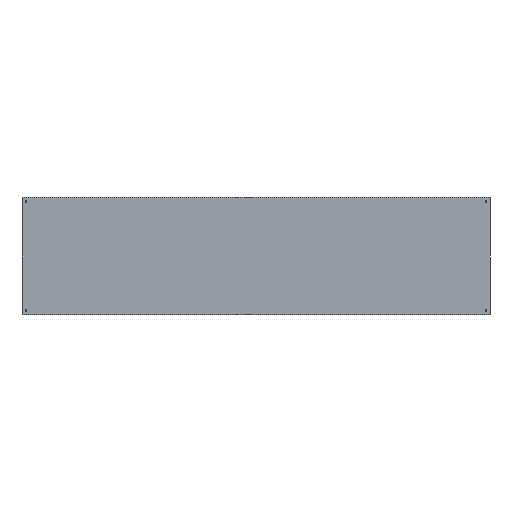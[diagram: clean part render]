
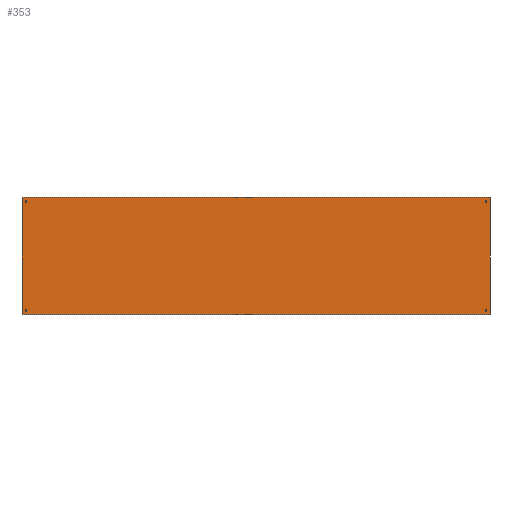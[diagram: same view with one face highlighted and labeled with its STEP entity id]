
A CAD part, top view. The second image highlights one B-rep face of the part: STEP entity #353.
In plain terms, the highlighted planar face has unit normal (0, 0, 1).
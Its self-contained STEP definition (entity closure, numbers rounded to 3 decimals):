
#30=FACE_BOUND('',#82,.T.);
#31=FACE_BOUND('',#83,.T.);
#32=FACE_BOUND('',#84,.T.);
#33=FACE_BOUND('',#85,.T.);
#42=CIRCLE('',#383,5.);
#43=CIRCLE('',#384,5.);
#44=CIRCLE('',#385,5.);
#45=CIRCLE('',#386,5.);
#46=CIRCLE('',#387,5.);
#47=CIRCLE('',#388,5.);
#48=CIRCLE('',#389,5.);
#49=CIRCLE('',#390,5.);
#59=FACE_OUTER_BOUND('',#81,.T.);
#81=EDGE_LOOP('',(#290,#291,#292,#293));
#82=EDGE_LOOP('',(#294,#295));
#83=EDGE_LOOP('',(#296,#297));
#84=EDGE_LOOP('',(#298,#299));
#85=EDGE_LOOP('',(#300,#301));
#101=LINE('',#524,#133);
#103=LINE('',#530,#135);
#110=LINE('',#543,#142);
#117=LINE('',#572,#149);
#133=VECTOR('',#413,304.8);
#135=VECTOR('',#417,304.8);
#142=VECTOR('',#426,304.8);
#149=VECTOR('',#461,304.8);
#158=VERTEX_POINT('',#509);
#165=VERTEX_POINT('',#522);
#167=VERTEX_POINT('',#527);
#168=VERTEX_POINT('',#529);
#182=VERTEX_POINT('',#574);
#183=VERTEX_POINT('',#575);
#184=VERTEX_POINT('',#578);
#185=VERTEX_POINT('',#579);
#186=VERTEX_POINT('',#582);
#187=VERTEX_POINT('',#583);
#188=VERTEX_POINT('',#586);
#189=VERTEX_POINT('',#587);
#197=EDGE_CURVE('',#165,#158,#101,.T.);
#199=EDGE_CURVE('',#167,#168,#103,.T.);
#206=EDGE_CURVE('',#158,#167,#110,.T.);
#221=EDGE_CURVE('',#168,#165,#117,.T.);
#222=EDGE_CURVE('',#182,#183,#42,.T.);
#223=EDGE_CURVE('',#183,#182,#43,.T.);
#224=EDGE_CURVE('',#184,#185,#44,.T.);
#225=EDGE_CURVE('',#185,#184,#45,.T.);
#226=EDGE_CURVE('',#186,#187,#46,.T.);
#227=EDGE_CURVE('',#187,#186,#47,.T.);
#228=EDGE_CURVE('',#188,#189,#48,.T.);
#229=EDGE_CURVE('',#189,#188,#49,.T.);
#290=ORIENTED_EDGE('',*,*,#197,.F.);
#291=ORIENTED_EDGE('',*,*,#221,.F.);
#292=ORIENTED_EDGE('',*,*,#199,.F.);
#293=ORIENTED_EDGE('',*,*,#206,.F.);
#294=ORIENTED_EDGE('',*,*,#222,.T.);
#295=ORIENTED_EDGE('',*,*,#223,.T.);
#296=ORIENTED_EDGE('',*,*,#224,.T.);
#297=ORIENTED_EDGE('',*,*,#225,.T.);
#298=ORIENTED_EDGE('',*,*,#226,.T.);
#299=ORIENTED_EDGE('',*,*,#227,.T.);
#300=ORIENTED_EDGE('',*,*,#228,.T.);
#301=ORIENTED_EDGE('',*,*,#229,.T.);
#343=PLANE('',#382);
#353=ADVANCED_FACE('',(#59,#30,#31,#32,#33),#343,.T.);
#382=AXIS2_PLACEMENT_3D('',#573,#462,#463);
#383=AXIS2_PLACEMENT_3D('',#576,#464,#465);
#384=AXIS2_PLACEMENT_3D('',#577,#466,#467);
#385=AXIS2_PLACEMENT_3D('',#580,#468,#469);
#386=AXIS2_PLACEMENT_3D('',#581,#470,#471);
#387=AXIS2_PLACEMENT_3D('',#584,#472,#473);
#388=AXIS2_PLACEMENT_3D('',#585,#474,#475);
#389=AXIS2_PLACEMENT_3D('',#588,#476,#477);
#390=AXIS2_PLACEMENT_3D('',#589,#478,#479);
#413=DIRECTION('',(0.,-1.,0.));
#417=DIRECTION('',(0.,1.,0.));
#426=DIRECTION('',(-1.,0.,0.));
#461=DIRECTION('',(1.,0.,0.));
#462=DIRECTION('center_axis',(0.,0.,1.));
#463=DIRECTION('ref_axis',(-1.,0.,0.));
#464=DIRECTION('center_axis',(0.,0.,-1.));
#465=DIRECTION('ref_axis',(1.,0.,0.));
#466=DIRECTION('center_axis',(0.,0.,-1.));
#467=DIRECTION('ref_axis',(1.,0.,0.));
#468=DIRECTION('center_axis',(0.,0.,-1.));
#469=DIRECTION('ref_axis',(1.,0.,0.));
#470=DIRECTION('center_axis',(0.,0.,-1.));
#471=DIRECTION('ref_axis',(1.,0.,0.));
#472=DIRECTION('center_axis',(0.,0.,-1.));
#473=DIRECTION('ref_axis',(1.,0.,0.));
#474=DIRECTION('center_axis',(0.,0.,-1.));
#475=DIRECTION('ref_axis',(1.,0.,0.));
#476=DIRECTION('center_axis',(0.,0.,-1.));
#477=DIRECTION('ref_axis',(1.,0.,0.));
#478=DIRECTION('center_axis',(0.,0.,-1.));
#479=DIRECTION('ref_axis',(1.,0.,0.));
#509=CARTESIAN_POINT('',(3000.,-375.,1.5));
#522=CARTESIAN_POINT('',(3000.,375.,1.5));
#524=CARTESIAN_POINT('',(3000.,375.,1.5));
#527=CARTESIAN_POINT('',(0.,-375.,1.5));
#529=CARTESIAN_POINT('',(0.,375.,1.5));
#530=CARTESIAN_POINT('',(0.,-375.,1.5));
#543=CARTESIAN_POINT('',(3000.,-375.,1.5));
#572=CARTESIAN_POINT('',(3000.,375.,1.5));
#573=CARTESIAN_POINT('Origin',(3000.,375.,1.5));
#574=CARTESIAN_POINT('',(30.,348.5,1.5));
#575=CARTESIAN_POINT('',(20.,348.5,1.5));
#576=CARTESIAN_POINT('Origin',(25.,348.5,1.5));
#577=CARTESIAN_POINT('Origin',(25.,348.5,1.5));
#578=CARTESIAN_POINT('',(30.,-348.5,1.5));
#579=CARTESIAN_POINT('',(20.,-348.5,1.5));
#580=CARTESIAN_POINT('Origin',(25.,-348.5,1.5));
#581=CARTESIAN_POINT('Origin',(25.,-348.5,1.5));
#582=CARTESIAN_POINT('',(2980.,348.5,1.5));
#583=CARTESIAN_POINT('',(2970.,348.5,1.5));
#584=CARTESIAN_POINT('Origin',(2975.,348.5,1.5));
#585=CARTESIAN_POINT('Origin',(2975.,348.5,1.5));
#586=CARTESIAN_POINT('',(2980.,-348.5,1.5));
#587=CARTESIAN_POINT('',(2970.,-348.5,1.5));
#588=CARTESIAN_POINT('Origin',(2975.,-348.5,1.5));
#589=CARTESIAN_POINT('Origin',(2975.,-348.5,1.5));
